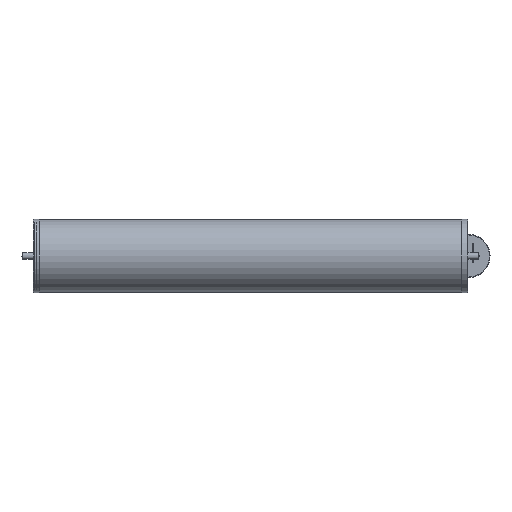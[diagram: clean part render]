
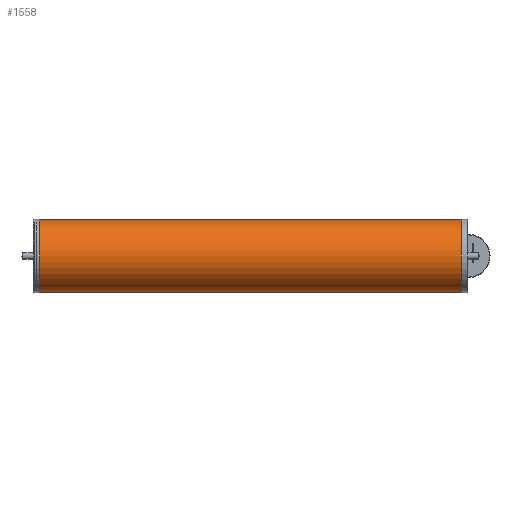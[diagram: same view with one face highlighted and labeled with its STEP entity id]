
A CAD part, left-side view. The second image highlights one B-rep face of the part: STEP entity #1558.
In plain terms, the highlighted cylindrical face has radius 83.5 mm (diameter 167 mm), a partial arc.
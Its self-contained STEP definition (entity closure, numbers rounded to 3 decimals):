
#146 = CYLINDRICAL_SURFACE ( 'NONE', #1783, 83.5 ) ;
#336 = DIRECTION ( 'NONE',  ( 0., 0., 1. ) ) ;
#357 = DIRECTION ( 'NONE',  ( 0., 0., -1. ) ) ;
#403 = VECTOR ( 'NONE', #3175, 1000. ) ;
#487 = ORIENTED_EDGE ( 'NONE', *, *, #1043, .T. ) ;
#896 = CARTESIAN_POINT ( 'NONE',  ( 0., 1.5, -83.5 ) ) ;
#995 = DIRECTION ( 'NONE',  ( 0., 1., 0. ) ) ;
#1005 = EDGE_CURVE ( 'NONE', #4418, #2896, #3083, .T. ) ;
#1043 = EDGE_CURVE ( 'NONE', #1497, #2455, #2062, .T. ) ;
#1053 = CARTESIAN_POINT ( 'NONE',  ( 0., 1001.5, 0. ) ) ;
#1215 = EDGE_CURVE ( 'NONE', #2455, #2896, #3303, .T. ) ;
#1303 = CARTESIAN_POINT ( 'NONE',  ( 0., 1001.5, -83.5 ) ) ;
#1322 = CARTESIAN_POINT ( 'NONE',  ( 0., 1001.5, 83.5 ) ) ;
#1343 = AXIS2_PLACEMENT_3D ( 'NONE', #2061, #995, #336 ) ;
#1493 = VECTOR ( 'NONE', #2507, 1000. ) ;
#1497 = VERTEX_POINT ( 'NONE', #1303 ) ;
#1558 = ADVANCED_FACE ( 'NONE', ( #4261 ), #146, .T. ) ;
#1783 = AXIS2_PLACEMENT_3D ( 'NONE', #1053, #3824, #357 ) ;
#1800 = CARTESIAN_POINT ( 'NONE',  ( 0., 1001.5, 83.5 ) ) ;
#1878 = CARTESIAN_POINT ( 'NONE',  ( 0., 1.5, 0. ) ) ;
#2061 = CARTESIAN_POINT ( 'NONE',  ( 0., 1001.5, 0. ) ) ;
#2062 = LINE ( 'NONE', #2141, #403 ) ;
#2098 = EDGE_LOOP ( 'NONE', ( #4039, #4451, #487, #2996 ) ) ;
#2141 = CARTESIAN_POINT ( 'NONE',  ( 0., 1001.5, -83.5 ) ) ;
#2455 = VERTEX_POINT ( 'NONE', #896 ) ;
#2507 = DIRECTION ( 'NONE',  ( 0., -1., 0. ) ) ;
#2723 = CIRCLE ( 'NONE', #1343, 83.5 ) ;
#2896 = VERTEX_POINT ( 'NONE', #3192 ) ;
#2965 = DIRECTION ( 'NONE',  ( 0., 0., 1. ) ) ;
#2996 = ORIENTED_EDGE ( 'NONE', *, *, #1215, .T. ) ;
#3083 = LINE ( 'NONE', #1800, #1493 ) ;
#3166 = EDGE_CURVE ( 'NONE', #1497, #4418, #2723, .T. ) ;
#3175 = DIRECTION ( 'NONE',  ( 0., -1., 0. ) ) ;
#3192 = CARTESIAN_POINT ( 'NONE',  ( 0., 1.5, 83.5 ) ) ;
#3303 = CIRCLE ( 'NONE', #3873, 83.5 ) ;
#3824 = DIRECTION ( 'NONE',  ( 0., -1., 0. ) ) ;
#3873 = AXIS2_PLACEMENT_3D ( 'NONE', #1878, #3982, #2965 ) ;
#3982 = DIRECTION ( 'NONE',  ( 0., 1., 0. ) ) ;
#4039 = ORIENTED_EDGE ( 'NONE', *, *, #1005, .F. ) ;
#4261 = FACE_OUTER_BOUND ( 'NONE', #2098, .T. ) ;
#4418 = VERTEX_POINT ( 'NONE', #1322 ) ;
#4451 = ORIENTED_EDGE ( 'NONE', *, *, #3166, .F. ) ;
